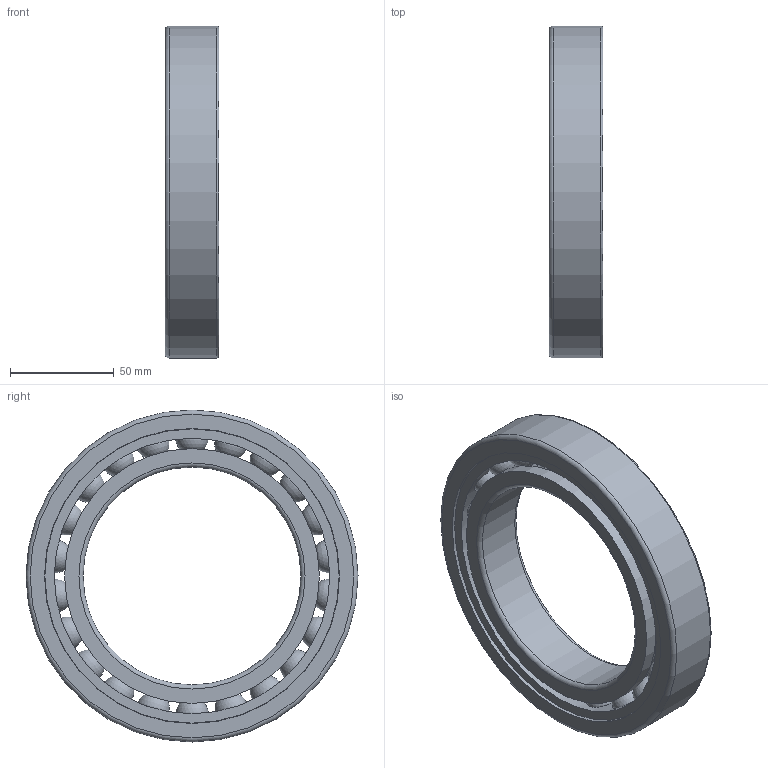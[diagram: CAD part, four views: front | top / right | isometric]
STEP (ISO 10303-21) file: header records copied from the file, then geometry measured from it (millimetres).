
FILE_DESCRIPTION(/* description */ (''),/* implementation_level */ '2;1');
FILE_NAME(/* name */ 'SM_6021_TA.step',/* time_stamp */ '2013-03-11T11:35:02+01:00',/* author */ ('Marian'),/* organization */ ('GMN'),/* preprocessor_version */ 'ST-DEVELOPER v11',/* originating_system */ 'SIEMENS UGS NX 6.0',/* authorisation */ '');
FILE_SCHEMA (('CONFIG_CONTROL_DESIGN'));
Length unit declared in the file: millimetre
Products named in the file (1): SM_6021_TA
Bounding box: 26 x 160 x 160 mm (x, y, z)
Volume: 226094.2 mm3; surface area: 93971.3 mm2
Topology: 25 solids, 25 shells, 64 faces, 170 edges, 110 vertices
Faces by surface type: cylinder 29, sphere 22, torus 6, plane 6, cone 1
Full cylindrical faces by diameter (mm): 16.075 x22, 105 x1, 122.8 x2, 132.795 x1, 141.8 x1, 142.2 x1, 160 x1
Entity records: 2126 total; most frequent: CARTESIAN_POINT 963, DIRECTION 170, FACE_BOUND 150, EDGE_LOOP 128, ORIENTED_EDGE 128, VERTEX_POINT 86, AXIS2_PLACEMENT_3D 85, EDGE_CURVE 64
